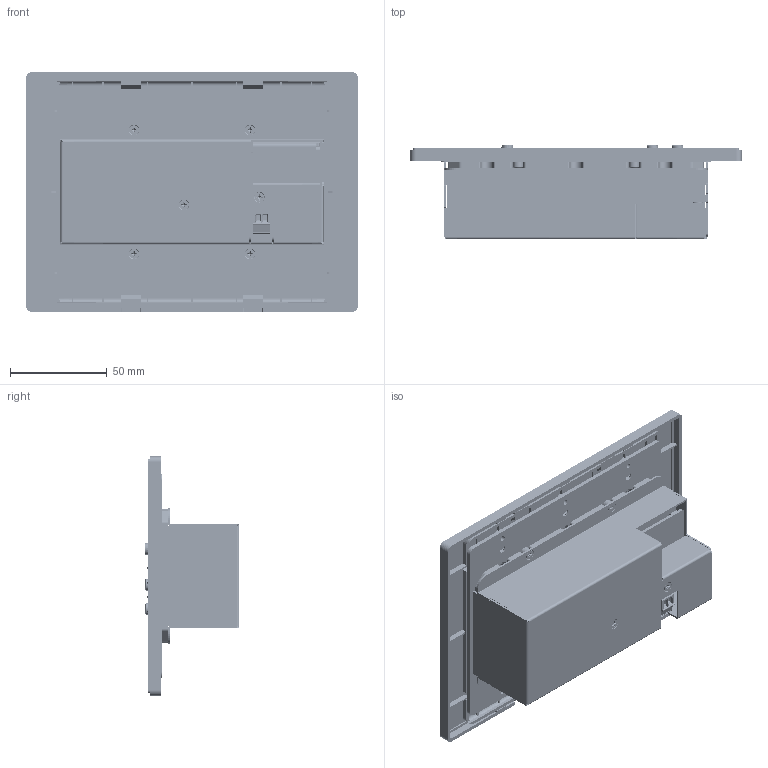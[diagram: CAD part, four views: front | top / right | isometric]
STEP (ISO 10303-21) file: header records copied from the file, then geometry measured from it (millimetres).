
FILE_DESCRIPTION((''),'2;1');
FILE_NAME('IPE6000W-US-UD-000_ASM','2023-05-04T',('Caoheng'),(''),'PRO/ENGINEER BY PARAMETRIC TECHNOLOGY CORPORATION, 2010280','PRO/ENGINEER BY PARAMETRIC TECHNOLOGY CORPORATION, 2010280','');
FILE_SCHEMA(('AUTOMOTIVE_DESIGN_CC2 { 1 2 10303 214 -1 1 5 2 }'));
Products named in the file (59): IPE6000W-US-UD-000-COVER; BOSS-M3X6; BOSS-M3X5; BOSS-M2X5; IPE6000W-US-UD-000-COVER_ASM; IPE6000W-US-UD-000-COVER-US-L; IPD6000W-US-U-000-COVER-US-M; IPD6000W-US-U-000-COVER-US-R; IPE6000W-US-UD-000-COVER-US-LTZ; IPE6000W-US-UD-000-COVER-ALL_ASM; IPE6000W-000-US-PCBA-1; USB-H2600KLT11200; HDMI_H000051S019S0; PJ-3201-L6S-Y; KFC_J0201K2180800; KFC_J0201H0000600; B060010SUBW00; IPE6000W-000-US-PCBA-1_ASM; IPE6000W-000-US-PCBA-2; USB_H120000MV0000; EX0201-N121-000-PCBA-03; HEADER-2PIN; IPE6000W-000-PCBA-TB_ASM; RJ45_H0600000VD000; RJ45-PCBA_ASM; IPE6000W-000-US-PCBA-2_ASM; IPD6000W-000-PCBA-3; RJ45_H270GT5ZZ0023; PHOENIX2-3_5_H140210FVD001; 2PIN_PLUG_H; J110125250501-L25W25H5-HEISE; U218-5W-15; U80-DAORGZ; PBZ; IPD6000W-US-U-000-PCBA-3_ASM; IPD6000WP-000-PCB-POE; POE-5W; IPD6000W-US-U-000-PCBA-POE_ASM; IPE6000W-EU-UD-000-PCBA_ASM; IPD6000W-US-U-000-BASE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
Assembly tree (98 placements, depth 5):
  IPE6000W-US-UD-000_ASM
    IPE6000W-US-UD-000-COVER-ALL_ASM
      IPE6000W-US-UD-000-COVER_ASM
        IPE6000W-US-UD-000-COVER
        BOSS-M3X6  x8
        BOSS-M3X5  x4
        BOSS-M2X5
      IPE6000W-US-UD-000-COVER-US-L
      IPD6000W-US-U-000-COVER-US-M
      IPD6000W-US-U-000-COVER-US-R
      IPE6000W-US-UD-000-COVER-US-LTZ
    IPE6000W-EU-UD-000-PCBA_ASM
      IPE6000W-000-US-PCBA-1_ASM
        IPE6000W-000-US-PCBA-1
        USB-H2600KLT11200
        HDMI_H000051S019S0
        PJ-3201-L6S-Y  x4
        KFC_J0201K2180800
        KFC_J0201H0000600
        B060010SUBW00  x4
      IPE6000W-000-US-PCBA-2_ASM
        IPE6000W-000-US-PCBA-2
        IPE6000W-000-PCBA-TB_ASM
          USB_H120000MV0000
          EX0201-N121-000-PCBA-03
          HEADER-2PIN  x2
        RJ45-PCBA_ASM
          RJ45_H0600000VD000
      IPD6000W-US-U-000-PCBA-3_ASM
        IPD6000W-000-PCBA-3
        RJ45_H270GT5ZZ0023
        PHOENIX2-3_5_H140210FVD001
        2PIN_PLUG_H
        J110125250501-L25W25H5-HEISE
        U218-5W-15
        U80-DAORGZ
        PBZ
      IPD6000W-US-U-000-PCBA-POE_ASM
        IPD6000WP-000-PCB-POE
        POE-5W
    IPE6000W-US-UD-000-BASE_ASM
      IPD6000W-US-U-000-BASE
      IPE6000W-US-UD-000-BASE-SRP
    3GANG-COVER_ASM
      3GANG-COVER-OUT
      3GANG-COVER-IN
    SCREW_ASM
      TONGZHU-640  x14
      M140000M3L505_M3_L5_SILVERY  x4
      TONGZHU-625  x3
      M140000M3L503_M3_L5_BLACK  x6
      TONGZHU-1805
    IPE6000W-US-UD-000-BKT_ASM
      IPE6000W-US-UD-000-BKT-1
      IPD6000W-US-U-000-BKT-US-2
    EMI-GASKETS_ASM
      HDMI-GASKET
      TYPC-GASKET
      USB-B-GASKET
Bounding box: 171.5 x 48.9 x 123.9 mm (x, y, z)
Volume: 214818.3 mm3; surface area: 275258.6 mm2
Topology: 94 solids, 100 shells, 6111 faces, 15887 edges, 10242 vertices
Faces by surface type: plane 3749, cylinder 1718, bspline 267, cone 234, torus 121, sphere 22
Entity records: 201983 total; most frequent: CARTESIAN_POINT 37126, ORIENTED_EDGE 26482, DIRECTION 26222, EDGE_CURVE 13241, PRESENTATION_STYLE_ASSIGNMENT 11972, STYLED_ITEM 11873, CURVE_STYLE 11827, VECTOR 9716
